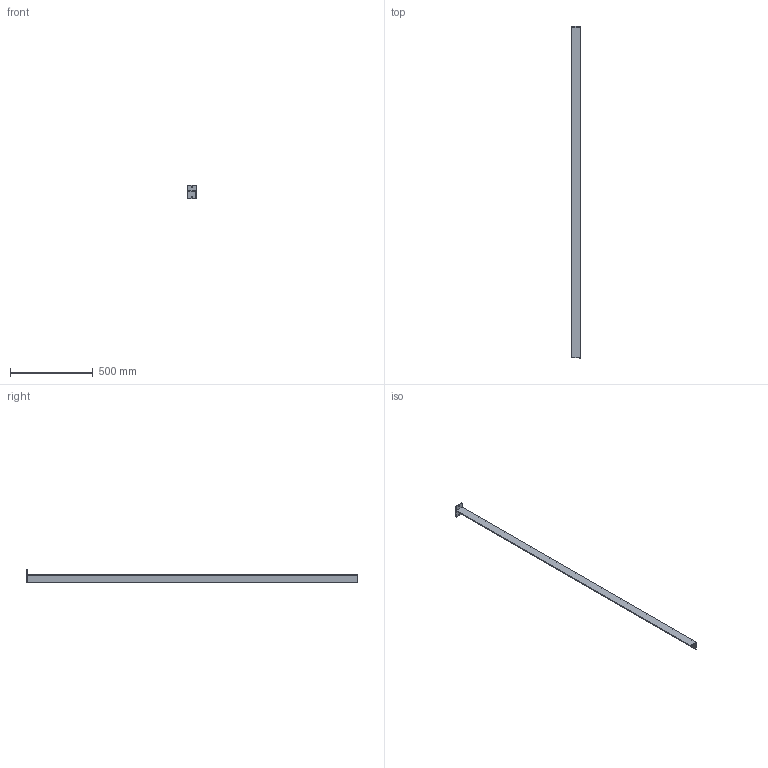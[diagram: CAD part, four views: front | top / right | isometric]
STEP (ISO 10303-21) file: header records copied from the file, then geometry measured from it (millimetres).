
FILE_DESCRIPTION(/* description */ (''),/* implementation_level */ '2;1');
FILE_NAME(/* name */ 'angle-50505t.step',/* time_stamp */ '2023-10-14T18:34:07+09:00',/* author */ (''),/* organization */ (''),/* preprocessor_version */ 'ST-DEVELOPER v20',/* originating_system */ 'Autodesk Translation Framework v12.14.0.127',/* authorisation */ '');
FILE_SCHEMA (('AUTOMOTIVE_DESIGN { 1 0 10303 214 3 1 1 }'));
Length unit declared in the file: millimetre
Products named in the file (1): angle-50*50*5t
Bounding box: 50 x 2006 x 80 mm (x, y, z)
Volume: 973057.5 mm3; surface area: 410572.8 mm2
Topology: 2 solids, 2 shells, 16 faces, 36 edges, 24 vertices
Faces by surface type: plane 14, cylinder 2
Full cylindrical faces by diameter (mm): 10 x2
Entity records: 484 total; most frequent: CARTESIAN_POINT 77, DIRECTION 74, ORIENTED_EDGE 72, EDGE_CURVE 36, LINE 32, VECTOR 32, VERTEX_POINT 24, AXIS2_PLACEMENT_3D 21
